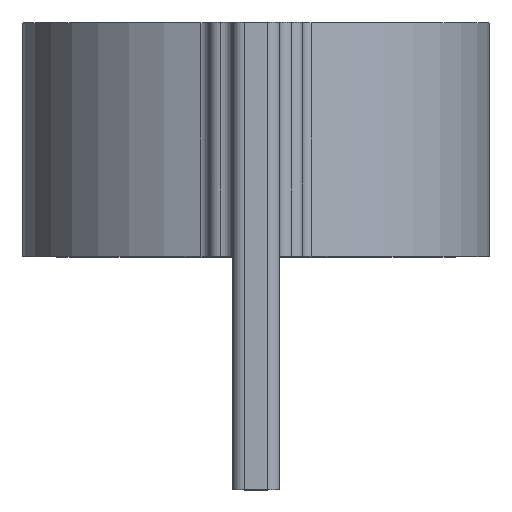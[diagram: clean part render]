
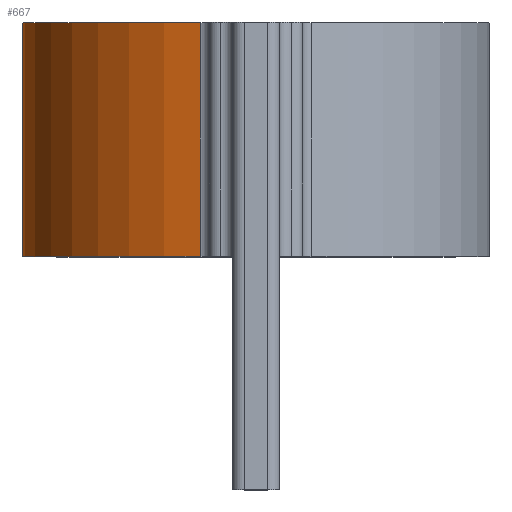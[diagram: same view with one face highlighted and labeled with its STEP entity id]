
A CAD part, top view. The second image highlights one B-rep face of the part: STEP entity #667.
In plain terms, the highlighted cylindrical face has radius 20 mm (diameter 40 mm), a partial arc.
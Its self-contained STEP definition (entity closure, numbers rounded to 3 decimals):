
#43=FACE_OUTER_BOUND('',#80,.T.);
#80=EDGE_LOOP('',(#469,#470,#471,#472));
#126=LINE('',#1042,#190);
#128=LINE('',#1050,#192);
#190=VECTOR('',#826,10.);
#192=VECTOR('',#834,10.);
#250=CIRCLE('',#727,20.);
#251=CIRCLE('',#728,20.);
#296=VERTEX_POINT('',#1039);
#297=VERTEX_POINT('',#1041);
#299=VERTEX_POINT('',#1047);
#300=VERTEX_POINT('',#1049);
#364=EDGE_CURVE('',#296,#297,#126,.T.);
#367=EDGE_CURVE('',#296,#299,#250,.T.);
#368=EDGE_CURVE('',#300,#299,#128,.T.);
#369=EDGE_CURVE('',#297,#300,#251,.T.);
#469=ORIENTED_EDGE('',*,*,#364,.F.);
#470=ORIENTED_EDGE('',*,*,#367,.T.);
#471=ORIENTED_EDGE('',*,*,#368,.F.);
#472=ORIENTED_EDGE('',*,*,#369,.F.);
#647=CYLINDRICAL_SURFACE('',#726,20.);
#667=ADVANCED_FACE('',(#43),#647,.T.);
#726=AXIS2_PLACEMENT_3D('',#1046,#830,#831);
#727=AXIS2_PLACEMENT_3D('',#1048,#832,#833);
#728=AXIS2_PLACEMENT_3D('',#1051,#835,#836);
#826=DIRECTION('',(0.,1.,0.));
#830=DIRECTION('center_axis',(0.,1.,0.));
#831=DIRECTION('ref_axis',(-0.2,0.,-0.98));
#832=DIRECTION('center_axis',(0.,1.,0.));
#833=DIRECTION('ref_axis',(-0.2,0.,-0.98));
#834=DIRECTION('',(0.,-1.,0.));
#835=DIRECTION('center_axis',(0.,1.,0.));
#836=DIRECTION('ref_axis',(-0.2,0.,-0.98));
#1039=CARTESIAN_POINT('',(-4.762,0.,-19.425));
#1041=CARTESIAN_POINT('',(-4.762,20.,-19.425));
#1042=CARTESIAN_POINT('',(-4.762,0.,-19.425));
#1046=CARTESIAN_POINT('Origin',(0.,0.,0.));
#1047=CARTESIAN_POINT('',(-4.762,0.,19.425));
#1048=CARTESIAN_POINT('Origin',(0.,0.,0.));
#1049=CARTESIAN_POINT('',(-4.762,20.,19.425));
#1050=CARTESIAN_POINT('',(-4.762,0.,19.425));
#1051=CARTESIAN_POINT('Origin',(0.,20.,0.));
